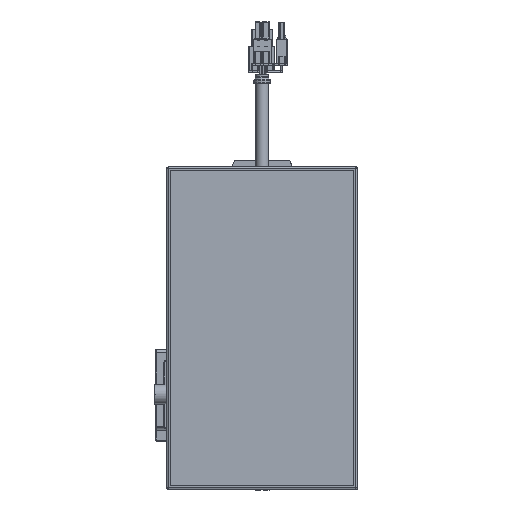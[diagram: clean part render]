
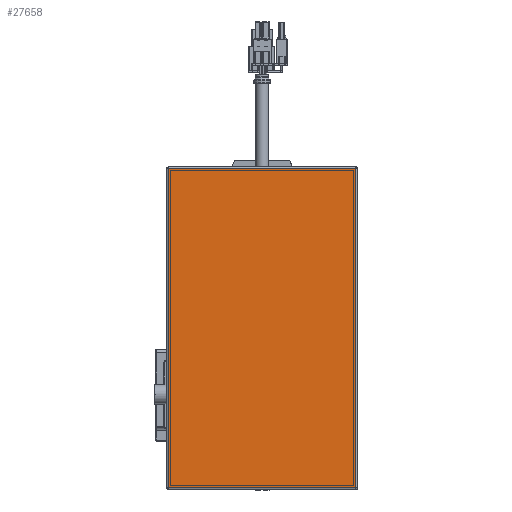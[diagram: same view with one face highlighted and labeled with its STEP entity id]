
A CAD part, top view. The second image highlights one B-rep face of the part: STEP entity #27658.
In plain terms, the highlighted planar face has unit normal (0, 0, 1).
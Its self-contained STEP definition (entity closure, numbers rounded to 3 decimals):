
#27619=CARTESIAN_POINT('',(-36.,36.,522.5));
#27620=DIRECTION('',(0.,1.,0.));
#27621=DIRECTION('',(0.,-0.,1.));
#27622=AXIS2_PLACEMENT_3D('',#27619,#27621,#27620);
#27623=PLANE('',#27622);
#27624=CARTESIAN_POINT('',(51.,-51.,522.5));
#27625=VERTEX_POINT('',#27624);
#27626=CARTESIAN_POINT('',(51.,123.,522.5));
#27627=VERTEX_POINT('',#27626);
#27628=CARTESIAN_POINT('',(51.,-51.,522.5));
#27629=DIRECTION('',(0.,1.,0.));
#27630=VECTOR('',#27629,174.);
#27631=LINE('',#27628,#27630);
#27632=EDGE_CURVE('',#27625,#27627,#27631,.T.);
#27633=ORIENTED_EDGE('E4136',*,*,#27632,.T.);
#27634=CARTESIAN_POINT('',(-51.,123.,522.5));
#27635=VERTEX_POINT('',#27634);
#27636=CARTESIAN_POINT('',(51.,123.,522.5));
#27637=DIRECTION('',(-1.,0.,0.));
#27638=VECTOR('',#27637,102.);
#27639=LINE('',#27636,#27638);
#27640=EDGE_CURVE('',#27627,#27635,#27639,.T.);
#27641=ORIENTED_EDGE('E4137',*,*,#27640,.T.);
#27642=CARTESIAN_POINT('',(-51.,-51.,522.5));
#27643=VERTEX_POINT('',#27642);
#27644=CARTESIAN_POINT('',(-51.,123.,522.5));
#27645=DIRECTION('',(0.,-1.,0.));
#27646=VECTOR('',#27645,174.);
#27647=LINE('',#27644,#27646);
#27648=EDGE_CURVE('',#27635,#27643,#27647,.T.);
#27649=ORIENTED_EDGE('E4138',*,*,#27648,.T.);
#27650=CARTESIAN_POINT('',(-51.,-51.,522.5));
#27651=DIRECTION('',(1.,0.,0.));
#27652=VECTOR('',#27651,102.);
#27653=LINE('',#27650,#27652);
#27654=EDGE_CURVE('',#27643,#27625,#27653,.T.);
#27655=ORIENTED_EDGE('E4139',*,*,#27654,.T.);
#27656=EDGE_LOOP('',(#27633,#27641,#27649,#27655));
#27657=FACE_OUTER_BOUND('',#27656,.T.);
#27658=ADVANCED_FACE('F1607',(#27657),#27623,.T.);
